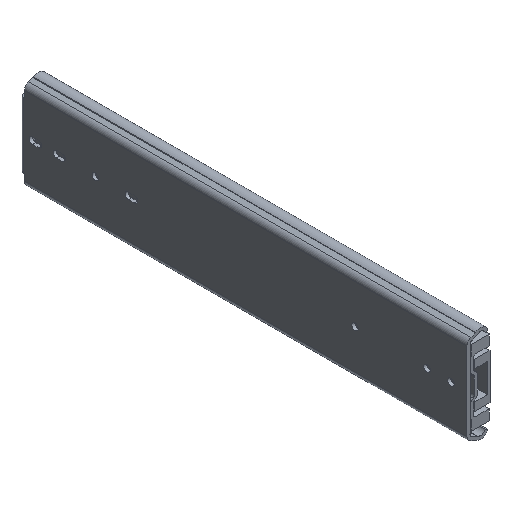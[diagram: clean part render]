
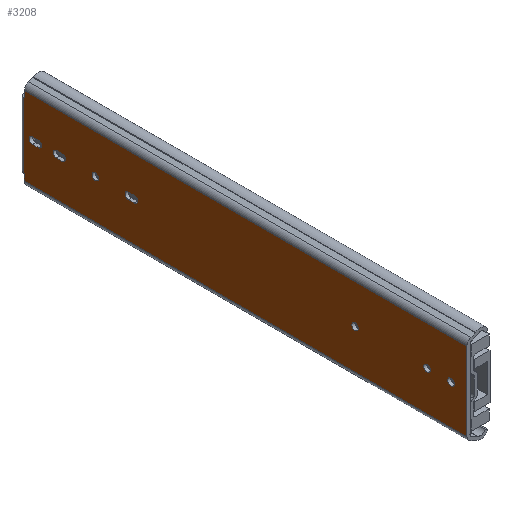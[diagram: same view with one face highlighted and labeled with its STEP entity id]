
A CAD part, isometric view. The second image highlights one B-rep face of the part: STEP entity #3208.
In plain terms, the highlighted planar face has unit normal (-1, 0, 0).
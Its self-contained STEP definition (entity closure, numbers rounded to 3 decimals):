
#84=PLANE('',#3835);
#190=CIRCLE('',#3792,2.6);
#192=CIRCLE('',#3795,2.6);
#194=CIRCLE('',#3798,2.6);
#197=CIRCLE('',#3803,2.6);
#199=CIRCLE('',#3807,2.6);
#200=CIRCLE('',#3809,2.6);
#203=CIRCLE('',#3814,2.619);
#205=CIRCLE('',#3818,2.619);
#208=CIRCLE('',#3824,2.6);
#211=CIRCLE('',#3832,2.6);
#712=ORIENTED_EDGE('',*,*,#1449,.F.);
#713=ORIENTED_EDGE('',*,*,#1413,.T.);
#714=ORIENTED_EDGE('',*,*,#1417,.F.);
#715=ORIENTED_EDGE('',*,*,#1447,.T.);
#716=ORIENTED_EDGE('',*,*,#1431,.T.);
#717=ORIENTED_EDGE('',*,*,#1429,.T.);
#718=ORIENTED_EDGE('',*,*,#1426,.T.);
#719=ORIENTED_EDGE('',*,*,#1423,.T.);
#720=ORIENTED_EDGE('',*,*,#1406,.F.);
#721=ORIENTED_EDGE('',*,*,#1403,.F.);
#722=ORIENTED_EDGE('',*,*,#1412,.F.);
#723=ORIENTED_EDGE('',*,*,#1409,.F.);
#724=ORIENTED_EDGE('',*,*,#1399,.F.);
#725=ORIENTED_EDGE('',*,*,#1397,.F.);
#726=ORIENTED_EDGE('',*,*,#1395,.F.);
#727=ORIENTED_EDGE('',*,*,#1437,.F.);
#728=ORIENTED_EDGE('',*,*,#1450,.T.);
#729=ORIENTED_EDGE('',*,*,#1380,.F.);
#730=ORIENTED_EDGE('',*,*,#1321,.T.);
#731=ORIENTED_EDGE('',*,*,#1319,.T.);
#732=ORIENTED_EDGE('',*,*,#1392,.T.);
#733=ORIENTED_EDGE('',*,*,#1343,.F.);
#734=ORIENTED_EDGE('',*,*,#1368,.F.);
#735=ORIENTED_EDGE('',*,*,#1345,.T.);
#1319=EDGE_CURVE('',#1752,#1755,#2076,.T.);
#1321=EDGE_CURVE('',#1757,#1752,#2077,.T.);
#1343=EDGE_CURVE('',#1775,#1774,#2089,.T.);
#1345=EDGE_CURVE('',#1778,#1777,#2090,.T.);
#1368=EDGE_CURVE('',#1778,#1775,#2105,.T.);
#1380=EDGE_CURVE('',#1757,#1802,#2112,.T.);
#1392=EDGE_CURVE('',#1755,#1774,#2120,.T.);
#1395=EDGE_CURVE('',#1809,#1809,#190,.T.);
#1397=EDGE_CURVE('',#1811,#1811,#192,.T.);
#1399=EDGE_CURVE('',#1813,#1813,#194,.T.);
#1403=EDGE_CURVE('',#1817,#1818,#2125,.T.);
#1406=EDGE_CURVE('',#1818,#1820,#197,.T.);
#1409=EDGE_CURVE('',#1820,#1822,#2129,.T.);
#1412=EDGE_CURVE('',#1822,#1817,#199,.T.);
#1413=EDGE_CURVE('',#1823,#1824,#200,.T.);
#1417=EDGE_CURVE('',#1827,#1824,#2133,.T.);
#1423=EDGE_CURVE('',#1830,#1832,#203,.T.);
#1426=EDGE_CURVE('',#1834,#1830,#2140,.T.);
#1429=EDGE_CURVE('',#1836,#1834,#205,.T.);
#1431=EDGE_CURVE('',#1832,#1836,#2143,.T.);
#1437=EDGE_CURVE('',#1841,#1841,#208,.T.);
#1447=EDGE_CURVE('',#1827,#1847,#211,.T.);
#1449=EDGE_CURVE('',#1823,#1847,#2153,.T.);
#1450=EDGE_CURVE('',#1777,#1802,#2154,.T.);
#1752=VERTEX_POINT('',#5136);
#1755=VERTEX_POINT('',#5141);
#1757=VERTEX_POINT('',#5147);
#1774=VERTEX_POINT('',#5189);
#1775=VERTEX_POINT('',#5191);
#1777=VERTEX_POINT('',#5196);
#1778=VERTEX_POINT('',#5198);
#1802=VERTEX_POINT('',#5267);
#1809=VERTEX_POINT('',#5296);
#1811=VERTEX_POINT('',#5301);
#1813=VERTEX_POINT('',#5306);
#1817=VERTEX_POINT('',#5314);
#1818=VERTEX_POINT('',#5316);
#1820=VERTEX_POINT('',#5322);
#1822=VERTEX_POINT('',#5328);
#1823=VERTEX_POINT('',#5335);
#1824=VERTEX_POINT('',#5336);
#1827=VERTEX_POINT('',#5344);
#1830=VERTEX_POINT('',#5351);
#1832=VERTEX_POINT('',#5355);
#1834=VERTEX_POINT('',#5360);
#1836=VERTEX_POINT('',#5366);
#1841=VERTEX_POINT('',#5384);
#1847=VERTEX_POINT('',#5403);
#2076=LINE('',#5142,#2406);
#2077=LINE('',#5146,#2407);
#2089=LINE('',#5192,#2419);
#2090=LINE('',#5197,#2420);
#2105=LINE('',#5244,#2435);
#2112=LINE('',#5266,#2442);
#2120=LINE('',#5290,#2450);
#2125=LINE('',#5315,#2455);
#2129=LINE('',#5327,#2459);
#2133=LINE('',#5343,#2463);
#2140=LINE('',#5362,#2470);
#2143=LINE('',#5371,#2473);
#2153=LINE('',#5406,#2483);
#2154=LINE('',#5408,#2484);
#2406=VECTOR('',#4197,1000.);
#2407=VECTOR('',#4202,1000.);
#2419=VECTOR('',#4244,1000.);
#2420=VECTOR('',#4249,1000.);
#2435=VECTOR('',#4294,1000.);
#2442=VECTOR('',#4317,1000.);
#2450=VECTOR('',#4345,1000.);
#2455=VECTOR('',#4370,1000.);
#2459=VECTOR('',#4382,1000.);
#2463=VECTOR('',#4400,1000.);
#2470=VECTOR('',#4415,1000.);
#2473=VECTOR('',#4426,1000.);
#2483=VECTOR('',#4464,1000.);
#2484=VECTOR('',#4467,1000.);
#2771=EDGE_LOOP('',(#712,#713,#714,#715));
#2772=EDGE_LOOP('',(#716,#717,#718,#719));
#2773=EDGE_LOOP('',(#720,#721,#722,#723));
#2774=EDGE_LOOP('',(#724));
#2775=EDGE_LOOP('',(#725));
#2776=EDGE_LOOP('',(#726));
#2777=EDGE_LOOP('',(#727));
#2778=EDGE_LOOP('',(#728,#729,#730,#731,#732,#733,#734,#735));
#2971=FACE_BOUND('',#2771,.T.);
#2972=FACE_BOUND('',#2772,.T.);
#2973=FACE_BOUND('',#2773,.T.);
#2974=FACE_BOUND('',#2774,.T.);
#2975=FACE_BOUND('',#2775,.T.);
#2976=FACE_BOUND('',#2776,.T.);
#2977=FACE_BOUND('',#2777,.T.);
#2978=FACE_BOUND('',#2778,.T.);
#3208=ADVANCED_FACE('',(#2971,#2972,#2973,#2974,#2975,#2976,#2977,#2978),
#84,.F.);
#3792=AXIS2_PLACEMENT_3D('',#5295,#4350,#4351);
#3795=AXIS2_PLACEMENT_3D('',#5300,#4356,#4357);
#3798=AXIS2_PLACEMENT_3D('',#5305,#4362,#4363);
#3803=AXIS2_PLACEMENT_3D('',#5321,#4376,#4377);
#3807=AXIS2_PLACEMENT_3D('',#5332,#4388,#4389);
#3809=AXIS2_PLACEMENT_3D('',#5334,#4392,#4393);
#3814=AXIS2_PLACEMENT_3D('',#5356,#4409,#4410);
#3818=AXIS2_PLACEMENT_3D('',#5368,#4421,#4422);
#3824=AXIS2_PLACEMENT_3D('',#5383,#4438,#4439);
#3832=AXIS2_PLACEMENT_3D('',#5402,#4459,#4460);
#3835=AXIS2_PLACEMENT_3D('',#5410,#4469,#4470);
#4197=DIRECTION('',(0.,-1.,0.));
#4202=DIRECTION('',(0.,0.,-1.));
#4244=DIRECTION('',(0.,1.,0.));
#4249=DIRECTION('',(0.,1.,0.));
#4294=DIRECTION('',(0.,0.,-1.));
#4317=DIRECTION('',(0.,-1.,0.));
#4345=DIRECTION('',(0.,0.,-1.));
#4350=DIRECTION('',(-1.,0.,0.));
#4351=DIRECTION('',(0.,1.,0.));
#4356=DIRECTION('',(-1.,0.,0.));
#4357=DIRECTION('',(0.,1.,0.));
#4362=DIRECTION('',(-1.,0.,0.));
#4363=DIRECTION('',(0.,1.,0.));
#4370=DIRECTION('',(0.,-1.,0.));
#4376=DIRECTION('',(-1.,0.,0.));
#4377=DIRECTION('',(0.,1.,0.));
#4382=DIRECTION('',(0.,1.,0.));
#4388=DIRECTION('',(-1.,0.,0.));
#4389=DIRECTION('',(0.,-1.,0.));
#4392=DIRECTION('',(1.,0.,0.));
#4393=DIRECTION('',(0.,0.,-1.));
#4400=DIRECTION('',(0.,1.,0.));
#4409=DIRECTION('',(1.,0.,0.));
#4410=DIRECTION('',(0.,0.,-1.));
#4415=DIRECTION('',(0.,1.,0.));
#4421=DIRECTION('',(1.,0.,0.));
#4422=DIRECTION('',(0.,0.,-1.));
#4426=DIRECTION('',(0.,-1.,0.));
#4438=DIRECTION('',(-1.,0.,0.));
#4439=DIRECTION('',(0.,1.,0.));
#4459=DIRECTION('',(1.,0.,0.));
#4460=DIRECTION('',(0.,0.,-1.));
#4464=DIRECTION('',(0.,-1.,0.));
#4467=DIRECTION('',(0.,0.,-1.));
#4469=DIRECTION('',(1.,0.,0.));
#4470=DIRECTION('',(0.,0.,-1.));
#5136=CARTESIAN_POINT('',(0.,352.1,-26.15));
#5141=CARTESIAN_POINT('',(0.,351.6,-26.15));
#5142=CARTESIAN_POINT('',(0.,352.1,-26.15));
#5146=CARTESIAN_POINT('',(0.,352.1,26.15));
#5147=CARTESIAN_POINT('',(0.,352.1,26.15));
#5189=CARTESIAN_POINT('',(0.,351.6,-31.142));
#5191=CARTESIAN_POINT('',(0.,0.,-31.142));
#5192=CARTESIAN_POINT('',(0.,0.,-31.142));
#5196=CARTESIAN_POINT('',(0.,351.6,31.132));
#5197=CARTESIAN_POINT('',(0.,0.,31.132));
#5198=CARTESIAN_POINT('',(0.,0.,31.132));
#5244=CARTESIAN_POINT('',(0.,0.,31.132));
#5266=CARTESIAN_POINT('',(0.,352.1,26.15));
#5267=CARTESIAN_POINT('',(0.,351.6,26.15));
#5290=CARTESIAN_POINT('',(0.,351.6,31.132));
#5295=CARTESIAN_POINT('',(0.,31.75,-0.006));
#5296=CARTESIAN_POINT('',(0.,34.35,-0.006));
#5300=CARTESIAN_POINT('',(0.,88.9,-0.006));
#5301=CARTESIAN_POINT('',(0.,91.5,-0.006));
#5305=CARTESIAN_POINT('',(0.,295.3,-0.006));
#5306=CARTESIAN_POINT('',(0.,297.9,-0.006));
#5314=CARTESIAN_POINT('',(0.,269.,-2.605));
#5315=CARTESIAN_POINT('',(0.,269.,-2.605));
#5316=CARTESIAN_POINT('',(0.,264.4,-2.605));
#5321=CARTESIAN_POINT('',(0.,264.4,-0.005));
#5322=CARTESIAN_POINT('',(0.,264.4,2.595));
#5327=CARTESIAN_POINT('',(0.,269.,2.595));
#5328=CARTESIAN_POINT('',(0.,269.,2.595));
#5332=CARTESIAN_POINT('',(0.,269.,-0.005));
#5334=CARTESIAN_POINT('',(0.,345.2,-0.006));
#5335=CARTESIAN_POINT('',(0.,345.2,-2.606));
#5336=CARTESIAN_POINT('',(0.,345.2,2.594));
#5343=CARTESIAN_POINT('',(0.,0.,2.594));
#5344=CARTESIAN_POINT('',(0.,340.6,2.594));
#5351=CARTESIAN_POINT('',(0.,326.499,-2.606));
#5355=CARTESIAN_POINT('',(0.,326.499,2.594));
#5356=CARTESIAN_POINT('',(0.,326.181,-0.006));
#5360=CARTESIAN_POINT('',(0.,321.301,-2.606));
#5362=CARTESIAN_POINT('',(0.,0.,-2.606));
#5366=CARTESIAN_POINT('',(0.,321.301,2.594));
#5368=CARTESIAN_POINT('',(0.,321.619,-0.006));
#5371=CARTESIAN_POINT('',(0.,0.,2.594));
#5383=CARTESIAN_POINT('',(0.,12.7,-0.006));
#5384=CARTESIAN_POINT('',(0.,15.3,-0.006));
#5402=CARTESIAN_POINT('',(0.,340.6,-0.006));
#5403=CARTESIAN_POINT('',(0.,340.6,-2.606));
#5406=CARTESIAN_POINT('',(0.,0.,-2.606));
#5408=CARTESIAN_POINT('',(0.,351.6,31.132));
#5410=CARTESIAN_POINT('',(0.,0.,31.132));
